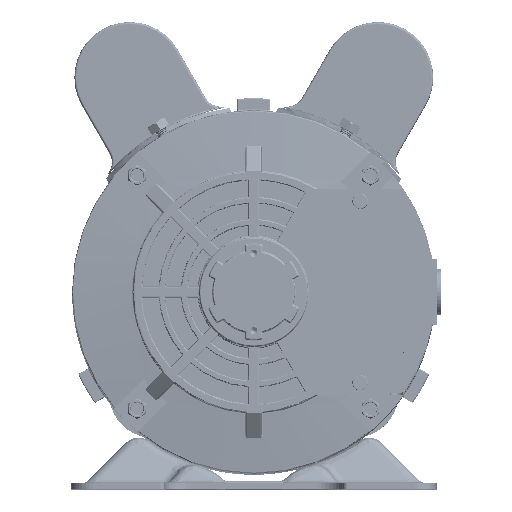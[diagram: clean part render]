
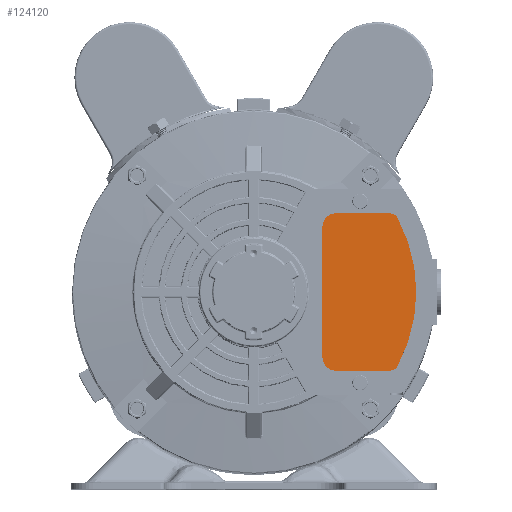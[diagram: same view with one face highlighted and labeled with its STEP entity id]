
A CAD part, top view. The second image highlights one B-rep face of the part: STEP entity #124120.
In plain terms, the highlighted planar face has unit normal (0, 0, 1).
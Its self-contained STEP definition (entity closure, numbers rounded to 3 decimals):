
#3718 = AXIS2_PLACEMENT_3D ( 'NONE', #104982, #159602, #36907 ) ;
#4879 = CARTESIAN_POINT ( 'NONE',  ( -63.464, -24.536, 440.3 ) ) ;
#5578 = CIRCLE ( 'NONE', #105755, 6. ) ;
#9265 = EDGE_LOOP ( 'NONE', ( #113550, #110572, #120217, #64355, #48773, #114911, #127438, #132866 ) ) ;
#19495 = CIRCLE ( 'NONE', #119600, 70. ) ;
#21802 = CARTESIAN_POINT ( 'NONE',  ( -5.466, -60.036, 440.3 ) ) ;
#22188 = CARTESIAN_POINT ( 'NONE',  ( -63.464, -24.536, 440.3 ) ) ;
#24858 = CARTESIAN_POINT ( 'NONE',  ( -35.844, 10.964, 440.3 ) ) ;
#25716 = CARTESIAN_POINT ( 'NONE',  ( -29.844, 4.964, 440.3 ) ) ;
#29830 = EDGE_CURVE ( 'NONE', #169351, #118406, #147526, .T. ) ;
#32405 = VECTOR ( 'NONE', #158314, 1000. ) ;
#35184 = DIRECTION ( 'NONE',  ( 0., 0., 1. ) ) ;
#36327 = EDGE_CURVE ( 'NONE', #159943, #98170, #146321, .T. ) ;
#36907 = DIRECTION ( 'NONE',  ( 0., -1., 0. ) ) ;
#37002 = DIRECTION ( 'NONE',  ( 1., 0., 0. ) ) ;
#39717 = EDGE_CURVE ( 'NONE', #98170, #165488, #19495, .T. ) ;
#45654 = CARTESIAN_POINT ( 'NONE',  ( -5.466, 6.964, 440.3 ) ) ;
#48773 = ORIENTED_EDGE ( 'NONE', *, *, #174896, .T. ) ;
#49077 = LINE ( 'NONE', #103688, #32405 ) ;
#49792 = CARTESIAN_POINT ( 'NONE',  ( -35.844, 4.964, 440.3 ) ) ;
#55759 = VERTEX_POINT ( 'NONE', #152548 ) ;
#59563 = DIRECTION ( 'NONE',  ( 0., 0., 1. ) ) ;
#60009 = EDGE_CURVE ( 'NONE', #118406, #136506, #80958, .T. ) ;
#61603 = CIRCLE ( 'NONE', #161701, 4. ) ;
#64152 = VECTOR ( 'NONE', #37002, 1000. ) ;
#64355 = ORIENTED_EDGE ( 'NONE', *, *, #161447, .T. ) ;
#69094 = AXIS2_PLACEMENT_3D ( 'NONE', #157861, #35184, #89803 ) ;
#71590 = VECTOR ( 'NONE', #79486, 1000. ) ;
#76817 = DIRECTION ( 'NONE',  ( 0., 0., 1. ) ) ;
#79486 = DIRECTION ( 'NONE',  ( 0., -1., 0. ) ) ;
#80345 = DIRECTION ( 'NONE',  ( 0., 0., 1. ) ) ;
#80958 = CIRCLE ( 'NONE', #3718, 6. ) ;
#89803 = DIRECTION ( 'NONE',  ( 0., -1., 0. ) ) ;
#90174 = AXIS2_PLACEMENT_3D ( 'NONE', #22188, #76817, #131398 ) ;
#90244 = FACE_OUTER_BOUND ( 'NONE', #9265, .T. ) ;
#98170 = VERTEX_POINT ( 'NONE', #124436 ) ;
#100226 = DIRECTION ( 'NONE',  ( 0., 0., 1. ) ) ;
#102048 = VERTEX_POINT ( 'NONE', #153939 ) ;
#103688 = CARTESIAN_POINT ( 'NONE',  ( -3.134, 10.964, 440.3 ) ) ;
#104982 = CARTESIAN_POINT ( 'NONE',  ( -29.844, -54.036, 440.3 ) ) ;
#105078 = LINE ( 'NONE', #159698, #64152 ) ;
#105755 = AXIS2_PLACEMENT_3D ( 'NONE', #25716, #80345, #134944 ) ;
#110572 = ORIENTED_EDGE ( 'NONE', *, *, #36327, .T. ) ;
#113550 = ORIENTED_EDGE ( 'NONE', *, *, #176689, .T. ) ;
#114126 = DIRECTION ( 'NONE',  ( 0., -1., 0. ) ) ;
#114911 = ORIENTED_EDGE ( 'NONE', *, *, #149394, .T. ) ;
#118406 = VERTEX_POINT ( 'NONE', #134250 ) ;
#119600 = AXIS2_PLACEMENT_3D ( 'NONE', #4879, #59563, #114126 ) ;
#120217 = ORIENTED_EDGE ( 'NONE', *, *, #39717, .T. ) ;
#124120 = ADVANCED_FACE ( 'NONE', ( #90244 ), #144864, .T. ) ;
#124436 = CARTESIAN_POINT ( 'NONE',  ( -1.951, -57.945, 440.3 ) ) ;
#127438 = ORIENTED_EDGE ( 'NONE', *, *, #29830, .T. ) ;
#131398 = DIRECTION ( 'NONE',  ( 1., 0., 0. ) ) ;
#132866 = ORIENTED_EDGE ( 'NONE', *, *, #60009, .T. ) ;
#134250 = CARTESIAN_POINT ( 'NONE',  ( -35.844, -54.036, 440.3 ) ) ;
#134944 = DIRECTION ( 'NONE',  ( 0., -1., 0. ) ) ;
#136506 = VERTEX_POINT ( 'NONE', #139041 ) ;
#139041 = CARTESIAN_POINT ( 'NONE',  ( -29.844, -60.036, 440.3 ) ) ;
#144864 = PLANE ( 'NONE',  #90174 ) ;
#146321 = CIRCLE ( 'NONE', #69094, 4. ) ;
#147526 = LINE ( 'NONE', #24858, #71590 ) ;
#149394 = EDGE_CURVE ( 'NONE', #102048, #169351, #5578, .T. ) ;
#152548 = CARTESIAN_POINT ( 'NONE',  ( -5.466, 10.964, 440.3 ) ) ;
#153939 = CARTESIAN_POINT ( 'NONE',  ( -29.844, 10.964, 440.3 ) ) ;
#154863 = DIRECTION ( 'NONE',  ( 0., -1., 0. ) ) ;
#157861 = CARTESIAN_POINT ( 'NONE',  ( -5.466, -56.036, 440.3 ) ) ;
#158314 = DIRECTION ( 'NONE',  ( -1., 0., 0. ) ) ;
#159602 = DIRECTION ( 'NONE',  ( 0., 0., 1. ) ) ;
#159698 = CARTESIAN_POINT ( 'NONE',  ( -35.844, -60.036, 440.3 ) ) ;
#159943 = VERTEX_POINT ( 'NONE', #21802 ) ;
#161447 = EDGE_CURVE ( 'NONE', #165488, #55759, #61603, .T. ) ;
#161701 = AXIS2_PLACEMENT_3D ( 'NONE', #45654, #100226, #154863 ) ;
#165488 = VERTEX_POINT ( 'NONE', #174331 ) ;
#169351 = VERTEX_POINT ( 'NONE', #49792 ) ;
#174331 = CARTESIAN_POINT ( 'NONE',  ( -1.951, 8.873, 440.3 ) ) ;
#174896 = EDGE_CURVE ( 'NONE', #55759, #102048, #49077, .T. ) ;
#176689 = EDGE_CURVE ( 'NONE', #136506, #159943, #105078, .T. ) ;
